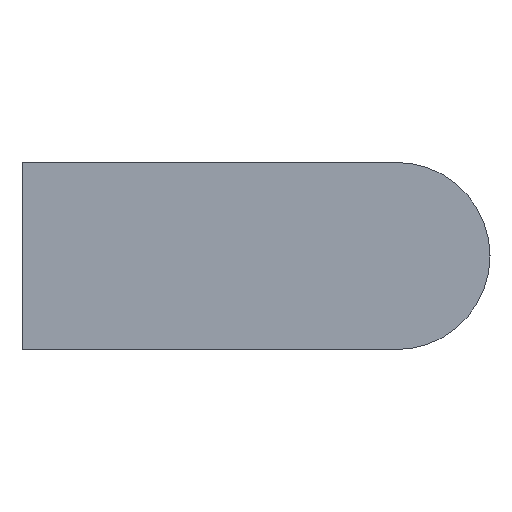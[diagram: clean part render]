
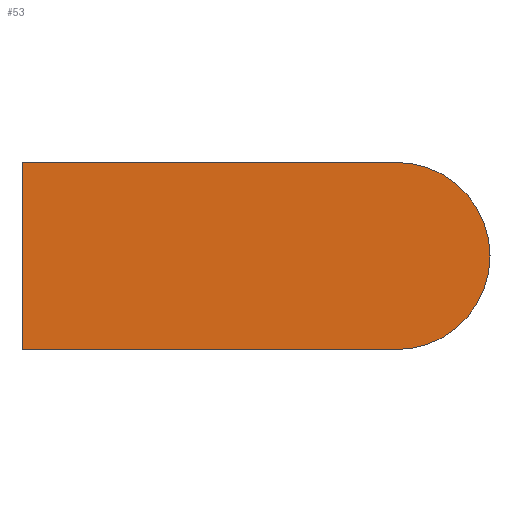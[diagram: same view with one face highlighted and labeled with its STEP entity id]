
A CAD part, left-side view. The second image highlights one B-rep face of the part: STEP entity #53.
In plain terms, the highlighted planar face has unit normal (-1, 0, 0).
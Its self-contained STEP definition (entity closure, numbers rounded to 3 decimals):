
#53 = ADVANCED_FACE( '', ( #118 ), #119, .F. );
#118 = FACE_OUTER_BOUND( '', #195, .T. );
#119 = PLANE( '', #196 );
#195 = EDGE_LOOP( '', ( #286, #287, #288, #289 ) );
#196 = AXIS2_PLACEMENT_3D( '', #290, #291, #292 );
#286 = ORIENTED_EDGE( '', *, *, #433, .F. );
#287 = ORIENTED_EDGE( '', *, *, #413, .F. );
#288 = ORIENTED_EDGE( '', *, *, #428, .F. );
#289 = ORIENTED_EDGE( '', *, *, #434, .F. );
#290 = CARTESIAN_POINT( '', ( -6., -28., 0. ) );
#291 = DIRECTION( '', ( 1., 0., 0. ) );
#292 = DIRECTION( '', ( 0., 0., -1. ) );
#413 = EDGE_CURVE( '', #473, #474, #475, .T. );
#428 = EDGE_CURVE( '', #499, #473, #500, .T. );
#433 = EDGE_CURVE( '', #474, #507, #508, .T. );
#434 = EDGE_CURVE( '', #507, #499, #509, .T. );
#473 = VERTEX_POINT( '', #558 );
#474 = VERTEX_POINT( '', #559 );
#475 = LINE( '', #560, #561 );
#499 = VERTEX_POINT( '', #593 );
#500 = LINE( '', #594, #595 );
#507 = VERTEX_POINT( '', #605 );
#508 = LINE( '', #606, #607 );
#509 = CIRCLE( '', #608, 7. );
#558 = CARTESIAN_POINT( '', ( -6., 0., -7. ) );
#559 = CARTESIAN_POINT( '', ( -6., 0., 7. ) );
#560 = CARTESIAN_POINT( '', ( -6., 0., -7. ) );
#561 = VECTOR( '', #667, 1000. );
#593 = CARTESIAN_POINT( '', ( -6., -28., -7. ) );
#594 = CARTESIAN_POINT( '', ( -6., -28., -7. ) );
#595 = VECTOR( '', #685, 1000. );
#605 = CARTESIAN_POINT( '', ( -6., -28., 7. ) );
#606 = CARTESIAN_POINT( '', ( -6., 0., 7. ) );
#607 = VECTOR( '', #689, 1000. );
#608 = AXIS2_PLACEMENT_3D( '', #690, #691, #692 );
#667 = DIRECTION( '', ( 0., 0., 1. ) );
#685 = DIRECTION( '', ( 0., 1., 0. ) );
#689 = DIRECTION( '', ( 0., -1., 0. ) );
#690 = CARTESIAN_POINT( '', ( -6., -28., 0. ) );
#691 = DIRECTION( '', ( 1., 0., 0. ) );
#692 = DIRECTION( '', ( 0., 0., -1. ) );
